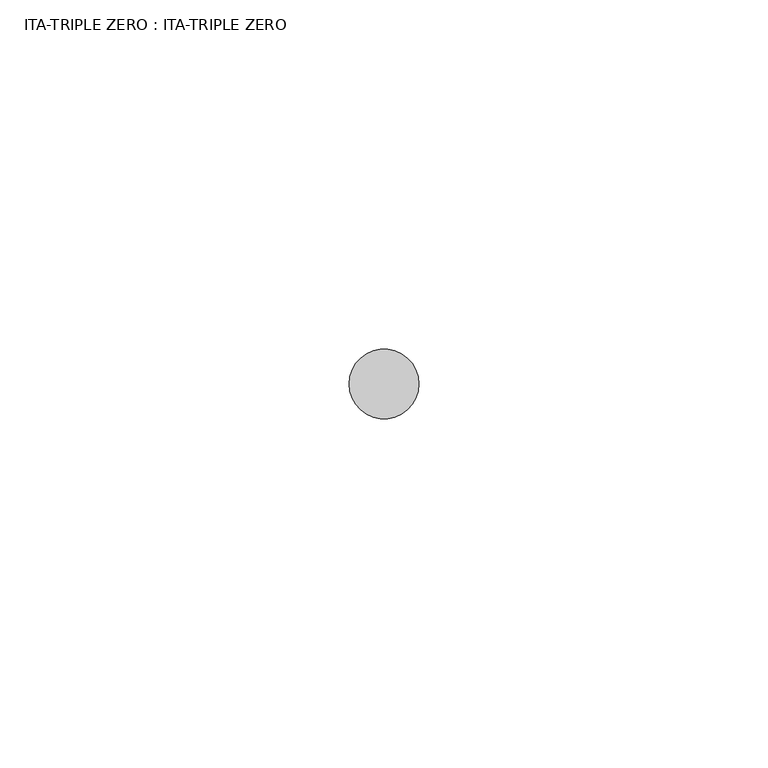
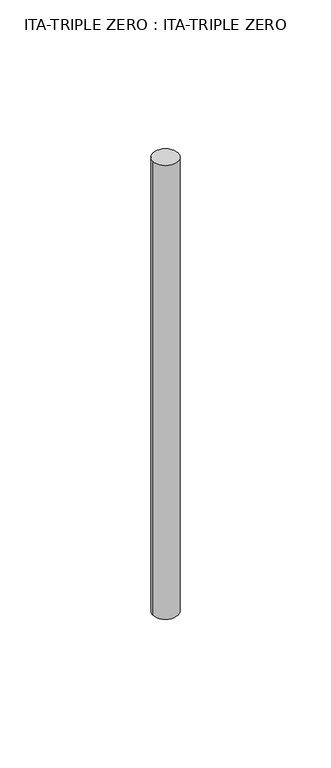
"""IFC4 building model written with IfcOpenShell, lengths in millimetres: proxy geometry, ITA-TRIPLE ZERO : ITA-TRIPLE ZERO."""

import ifcopenshell
import ifcopenshell.guid

model = None  # the IFC model being written
_history = None  # IfcOwnerHistory: only IFC2X3 demands one
_inside = {}  # id of a spatial element -> (the spatial element, [elements in it])
_under = {}  # id of a project, library or spatial element -> (it, [spatial elements below it])
_declared = {}  # id of a project -> (the project, [libraries it declares])
_typed = {}  # id of a type object -> (the type object, [elements of that type])
_made_of = {}  # id of a material, layer set ... -> (it, [elements and type objects made of it])


def new_model(schema):
    """Start an empty IFC model of exactly this schema.

    Asked for "IFC4X3", IfcOpenShell would pick the latest addendum, in which some entities
    have other attributes; the version numbers below select the first issue.
    IFC2X3 requires an IfcOwnerHistory on every rooted entity: one is made here for all.
    """
    global model, _history
    if schema == "IFC4X3":
        model = ifcopenshell.file(schema_version=(4, 3, 0, 0))
    else:
        model = ifcopenshell.file(schema=schema)
    _inside.clear()
    _under.clear()
    _declared.clear()
    _typed.clear()
    _made_of.clear()
    _history = None
    if model.schema == "IFC2X3":
        org = make("IfcOrganization", Name="unknown")
        user = make(
            "IfcPersonAndOrganization",
            ThePerson=make("IfcPerson", FamilyName="unknown"),
            TheOrganization=org,
        )
        app = make(
            "IfcApplication",
            ApplicationDeveloper=org,
            Version="unknown",
            ApplicationFullName="unknown",
            ApplicationIdentifier="unknown",
        )
        _history = make(
            "IfcOwnerHistory",
            OwningUser=user,
            OwningApplication=app,
            ChangeAction="ADDED",
            CreationDate=0,
        )
    return model


def make(cls, **values):
    """One entity of the class cls with the attributes given. An attribute that is None is left unset."""
    return model.create_entity(
        cls, **{name: value for name, value in values.items() if value is not None}
    )


def rooted(cls, **values):
    """An entity with a GlobalId (a new one), such as an element, a storey or a relation."""
    return make(cls, GlobalId=ifcopenshell.guid.new(), OwnerHistory=_history, **values)


def si_unit(unit_type, name, prefix=None):
    """IfcSIUnit, for example si_unit("LENGTHUNIT", "METRE", prefix="MILLI")."""
    return make("IfcSIUnit", UnitType=unit_type, Prefix=prefix, Name=name)


def assignment(units):
    """IfcUnitAssignment: the units of a project."""
    return None if units is None else make("IfcUnitAssignment", Units=units)


def point(xyz):
    """IfcCartesianPoint."""
    return None if xyz is None else make("IfcCartesianPoint", Coordinates=xyz)


def direction(xyz):
    """IfcDirection."""
    return None if xyz is None else make("IfcDirection", DirectionRatios=xyz)


def frame(location, z_axis=None, x_axis=None):
    """IfcAxis2Placement3D, a coordinate frame: its origin and axes. An axis left out is left unset."""
    return make(
        "IfcAxis2Placement3D",
        Location=point(location),
        Axis=direction(z_axis),
        RefDirection=direction(x_axis),
    )


def frame_2d(location, x_axis=None):
    """IfcAxis2Placement2D, a coordinate frame in the plane: its origin and x axis."""
    return make(
        "IfcAxis2Placement2D", Location=point(location), RefDirection=direction(x_axis)
    )


def origin():
    """The frame at (0, 0, 0) with its axes left unset."""
    return frame((0.0, 0.0, 0.0))


def origin_with_axes():
    """The frame at (0, 0, 0) with the z axis (0, 0, 1) and the x axis (1, 0, 0) written out."""
    return frame((0.0, 0.0, 0.0), z_axis=(0.0, 0.0, 1.0), x_axis=(1.0, 0.0, 0.0))


def origin_2d():
    """The frame at (0, 0) in the plane with its x axis left unset."""
    return frame_2d((0.0, 0.0))


def place(relative_to, where):
    """IfcLocalPlacement: puts the frame where relative to a parent placement (None: the world)."""
    return make(
        "IfcLocalPlacement", PlacementRelTo=relative_to, RelativePlacement=where
    )


def context(
    kind, dimensions, precision=None, world=None, true_north=None, identifier=None
):
    """IfcGeometricRepresentationContext, for example the 3D "Model" context."""
    return make(
        "IfcGeometricRepresentationContext",
        ContextIdentifier=identifier,
        ContextType=kind,
        CoordinateSpaceDimension=dimensions,
        Precision=precision,
        WorldCoordinateSystem=world,
        TrueNorth=true_north,
    )


def project(units=None, contexts=None):
    """IfcProject with its units and contexts."""
    return rooted(
        "IfcProject",
        Name="project",
        RepresentationContexts=contexts,
        UnitsInContext=assignment(units),
    )


def spatial(cls, under=None, at=None, **own):
    """A site, building, storey or space (cls), placed at a placement, below another one or the project."""
    s = rooted(cls, ObjectPlacement=at, **own)
    if under is not None:
        _under.setdefault(under.id(), (under, []))[1].append(s)
    return s


def circle_curve(where, radius):
    """IfcCircle in the frame where."""
    return make("IfcCircle", Position=where, Radius=radius)


def trimmed(basis, trim1, trim2, sense, master):
    """IfcTrimmedCurve: the piece of a basis curve between two trims."""
    return make(
        "IfcTrimmedCurve",
        BasisCurve=basis,
        Trim1=trim1,
        Trim2=trim2,
        SenseAgreement=sense,
        MasterRepresentation=master,
    )


def segment(curve, same_sense, transition):
    """IfcCompositeCurveSegment."""
    return make(
        "IfcCompositeCurveSegment",
        Transition=transition,
        SameSense=same_sense,
        ParentCurve=curve,
    )


def composite_curve(segments, self_intersect=None):
    """IfcCompositeCurve: segments joined end to end."""
    return make("IfcCompositeCurve", Segments=segments, SelfIntersect=self_intersect)


def outline(outer, holes=None, kind="AREA"):
    """IfcArbitraryClosedProfileDef: a profile drawn as a closed curve; with holes, ...WithVoids."""
    if holes is None:
        return make("IfcArbitraryClosedProfileDef", ProfileType=kind, OuterCurve=outer)
    return make(
        "IfcArbitraryProfileDefWithVoids",
        ProfileType=kind,
        OuterCurve=outer,
        InnerCurves=holes,
    )


def extrude(swept, where, along, depth):
    """IfcExtrudedAreaSolid: the profile swept, set in the frame where, extruded along a direction by depth."""
    return make(
        "IfcExtrudedAreaSolid",
        SweptArea=swept,
        Position=where,
        ExtrudedDirection=direction(along),
        Depth=depth,
    )


def shape(context_of_items, identifier, shape_type, items):
    """IfcShapeRepresentation: the items that make up one representation, for example the "Body"."""
    return make(
        "IfcShapeRepresentation",
        ContextOfItems=context_of_items,
        RepresentationIdentifier=identifier,
        RepresentationType=shape_type,
        Items=items,
    )


def source(mapping_origin, context_of_items, identifier, shape_type, items):
    """IfcRepresentationMap: a shape defined once, which mapped items show again and again."""
    return make(
        "IfcRepresentationMap",
        MappingOrigin=mapping_origin,
        MappedRepresentation=shape(context_of_items, identifier, shape_type, items),
    )


def transform(
    local_origin,
    x_axis=None,
    y_axis=None,
    z_axis=None,
    scale=None,
    scale2=None,
    scale3=None,
    uniform=True,
):
    """IfcCartesianTransformationOperator3D, or its non-uniform kind. x_axis, y_axis, z_axis: its Axis1, 2, 3."""
    if uniform:
        return make(
            "IfcCartesianTransformationOperator3D",
            Axis1=direction(x_axis),
            Axis2=direction(y_axis),
            LocalOrigin=point(local_origin),
            Scale=scale,
            Axis3=direction(z_axis),
        )
    return make(
        "IfcCartesianTransformationOperator3DnonUniform",
        Axis1=direction(x_axis),
        Axis2=direction(y_axis),
        LocalOrigin=point(local_origin),
        Scale=scale,
        Axis3=direction(z_axis),
        Scale2=scale2,
        Scale3=scale3,
    )


def mapped(mapping_source, mapping_target):
    """IfcMappedItem: shows the shape of a source again, moved by a transform."""
    return make(
        "IfcMappedItem", MappingSource=mapping_source, MappingTarget=mapping_target
    )


def made_of(thing, what):
    """Note that an element or type object is made of a material, layer set ...; save() writes the relation."""
    if what is not None:
        _made_of.setdefault(what.id(), (what, []))[1].append(thing)
    return thing


def element(
    cls,
    number,
    at=None,
    inside=None,
    cuts=None,
    type_object=None,
    material=None,
    context=None,
    identifier="Body",
    shape_type=None,
    held_by="IfcProductDefinitionShape",
    body=None,
    shapes=None,
    **own,
):
    """One element of the class cls, such as IfcWall. Its Tag is "e" and its number.

    at: its placement. inside: the storey or other place that contains it. cuts: it is an
    opening in that element (IfcRelVoidsElement). A single representation is given by context,
    identifier, shape_type and body (its items); several are given by shapes. held_by: the class
    of the entity that holds the representations. save() writes the other relations.
    """
    e = rooted(cls, Tag="e%d" % number, ObjectPlacement=at, **own)
    if body is not None:
        shapes = [shape(context, identifier, shape_type, body)]
    if shapes is not None:
        e.Representation = make(held_by, Representations=shapes)
    if inside is not None:
        _inside.setdefault(inside.id(), (inside, []))[1].append(e)
    if cuts is not None:
        rooted(
            "IfcRelVoidsElement", RelatingBuildingElement=cuts, RelatedOpeningElement=e
        )
    if type_object is not None:
        _typed.setdefault(type_object.id(), (type_object, []))[1].append(e)
    return made_of(e, material)


def aggregate(whole, parts):
    """IfcRelAggregates: a whole, such as a stair, and the parts it consists of."""
    return rooted("IfcRelAggregates", RelatingObject=whole, RelatedObjects=parts)


def save(model, path):
    """Write the relations noted so far, then the file.

    IfcRelAggregates (storeys below a building ...), IfcRelContainedInSpatialStructure (elements
    in a storey), IfcRelDefinesByType, IfcRelAssociatesMaterial and IfcRelDeclares: one each for
    every whole, place, type object, material and project.
    """
    for whole, parts in _under.values():
        aggregate(whole, parts)
    for where, things in _inside.values():
        rooted(
            "IfcRelContainedInSpatialStructure",
            RelatedElements=things,
            RelatingStructure=where,
        )
    for kind, things in _typed.values():
        rooted("IfcRelDefinesByType", RelatedObjects=things, RelatingType=kind)
    for what, things in _made_of.values():
        rooted("IfcRelAssociatesMaterial", RelatedObjects=things, RelatingMaterial=what)
    for by, libraries in _declared.values():
        rooted("IfcRelDeclares", RelatingContext=by, RelatedDefinitions=libraries)
    model.write(path)


def ita_triple_zero_ita_triple_zero_a9e28b2d(model_context):
    return source(origin(), model_context, "Body", "SweptSolid", [
        extrude(outline(composite_curve([segment(trimmed(circle_curve(origin_2d(), 5.0), [point((-5.0, 0.0))], [point((5.0, 0.0))], False, "CARTESIAN"), True, "CONTINUOUS"), segment(trimmed(circle_curve(origin_2d(), 5.0), [point((5.0, 0.0))], [point((-5.0, 0.0))], False, "CARTESIAN"), True, "CONTINUOUS")], self_intersect=False)), origin_with_axes(), (0.0, 0.0, 1.0), 190.0),
    ])


if __name__ == "__main__":
    model = new_model("IFC4")
    model_context = context("Model", 3, world=origin())
    ifc_project = project(units=[si_unit("LENGTHUNIT", "METRE", prefix="MILLI")], contexts=[model_context])
    site = spatial("IfcSite", under=ifc_project)
    building = spatial("IfcBuilding", under=site)
    placement = place(None, origin())
    ita_triple_zero_ita_triple_zero_shape = ita_triple_zero_ita_triple_zero_a9e28b2d(model_context)
    element("IfcBuildingElementProxy", 1, Name="ITA-TRIPLE ZERO : ITA-TRIPLE ZERO", ObjectType="ITA-TRIPLE ZERO : ITA-TRIPLE ZERO", at=placement, inside=building, context=model_context, shape_type="MappedRepresentation", body=[
        mapped(ita_triple_zero_ita_triple_zero_shape, transform((0.0, 0.0, 0.0), x_axis=(1.0, 0.0, 0.0), y_axis=(0.0, 1.0, 0.0), z_axis=(0.0, 0.0, 1.0))),
    ])
    save(model, "model.ifc")
